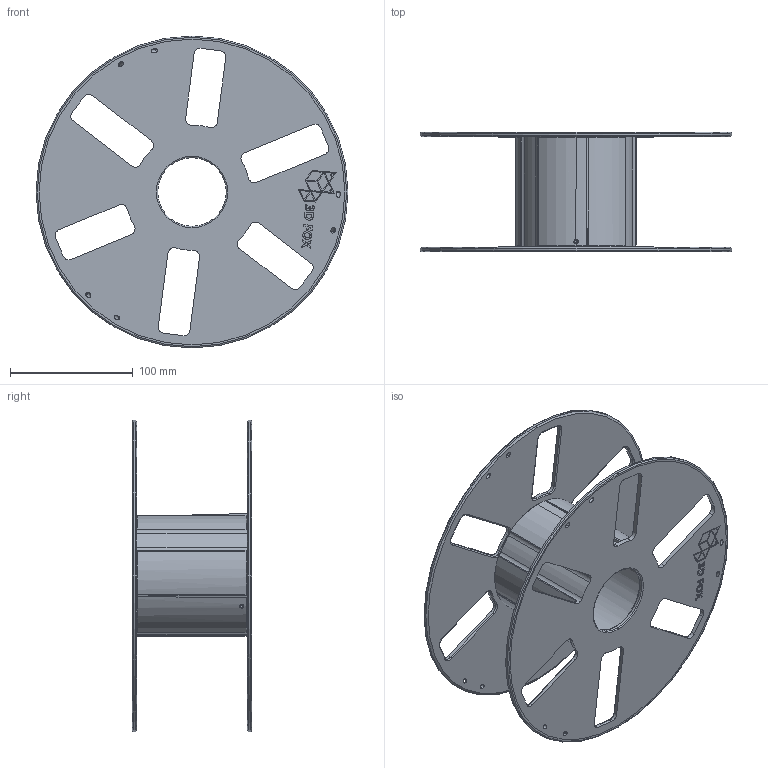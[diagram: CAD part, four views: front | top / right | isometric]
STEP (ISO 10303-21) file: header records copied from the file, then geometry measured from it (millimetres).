
FILE_DESCRIPTION(('CATIA V5 STEP','CAx-IF Rec.Pracs.--- Model Styling and Organization---1.5--- 2016-08-15','CAx-IF Rec.Pracs.---Supplemental Geometry---1.0---2011-11-01','CAx-IF Rec.Pracs.--- Composite Materials ---1.1---2010-07-15'),'2;1');
FILE_NAME('T:\P087_Vyroba_filamentu\W\B_Frei\3D\24_Refill_bambu\CAD_3kg_Spulka\REFILL_BAMBU_3KG_V5_TL90.stp','2025-07-30T14:46:32+00:00',('none'),('VOLKSWAGEN AG'),'CATIA Version 5-6 Release 2024 SP3 HF10','CATIA V5 STEP AP214 v3','none');
FILE_SCHEMA(('AUTOMOTIVE_DESIGN { 1 0 10303 214 1 1 1 1 }'));
Length unit declared in the file: millimetre
Products named in the file (1): REFILL_BAMBU_3KG_V5_TL90
Bounding box: 254.09 x 97.2 x 254.09 mm (x, y, z)
Volume: 394461.5 mm3; surface area: 231411.8 mm2
Topology: 2 solids, 2 shells, 1175 faces, 3227 edges, 2076 vertices
Faces by surface type: extrusion 488, plane 260, cylinder 213, torus 80, cone 78, bspline 44, sphere 12
Entity records: 53436 total; most frequent: CARTESIAN_POINT 26892, ORIENTED_EDGE 6422, DIRECTION 3399, EDGE_CURVE 3211, VERTEX_POINT 2076, VECTOR 1860, B_SPLINE_CURVE_WITH_KNOTS 1766, LINE 1372
